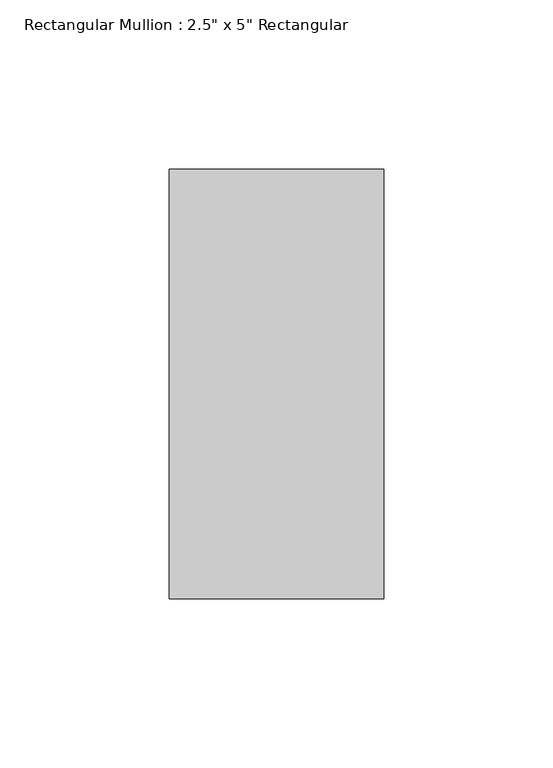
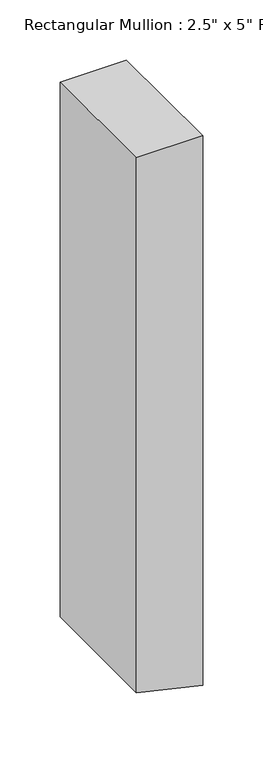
"""IFC4 building model written with IfcOpenShell, lengths in millimetres: member geometry."""

from ifc_helpers import new_model, si_unit, frame, origin, place, context, project, spatial, polyline, outline, extrude, source, transform, mapped, element, save


def member_398e82c5(model_context):
    return source(origin(), model_context, "Body", "SweptSolid", [
        extrude(outline(polyline([(0.0, 0.0), (0.0, -63.5), (-543.4314339, -63.5), (-558.4217505, 0.0), (0.0, 0.0)])), frame((0.0, -63.5, 0.0), z_axis=(0.0, 1.0, 0.0), x_axis=(0.0, 0.0, 1.0)), (0.0, 0.0, 1.0), 127.0),
    ])


if __name__ == "__main__":
    model = new_model("IFC4")
    model_context = context("Model", 3, world=origin())
    ifc_project = project(units=[si_unit("LENGTHUNIT", "METRE", prefix="MILLI")], contexts=[model_context])
    site = spatial("IfcSite", under=ifc_project)
    building = spatial("IfcBuilding", under=site)
    placement = place(None, origin())
    member_shape = member_398e82c5(model_context)
    element("IfcMember", 1, ObjectType="Rectangular Mullion : 2.5\" x 5\" Rectangular", at=placement, inside=building, context=model_context, shape_type="MappedRepresentation", body=[
        mapped(member_shape, transform((0.0, 0.0, 0.0), x_axis=(1.0, 0.0, 0.0), y_axis=(0.0, 1.0, 0.0), z_axis=(0.0, 0.0, 1.0))),
    ])
    save(model, "model.ifc")
